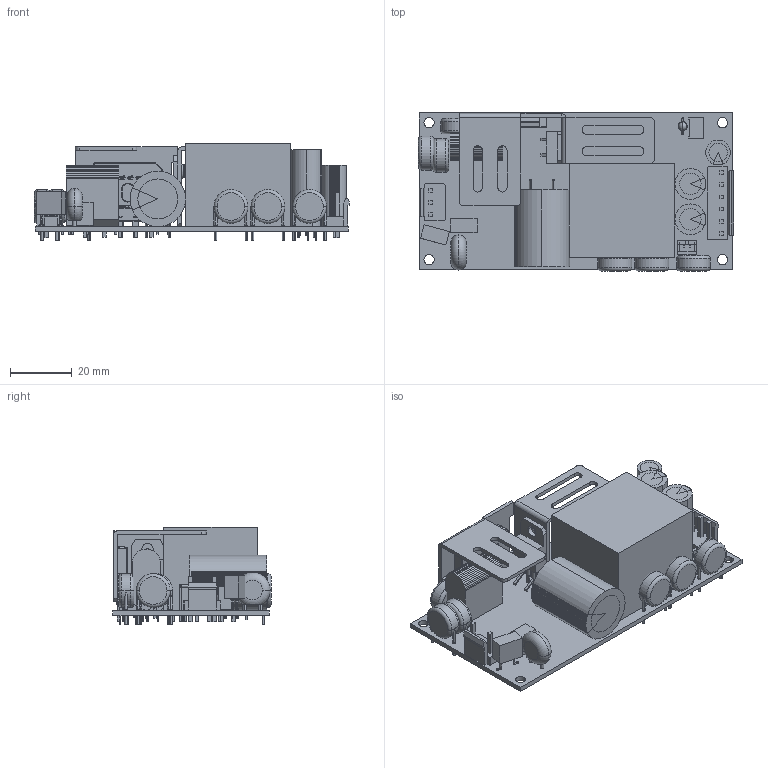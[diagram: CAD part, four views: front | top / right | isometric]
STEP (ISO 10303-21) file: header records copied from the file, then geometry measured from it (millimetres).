
FILE_DESCRIPTION(('Creo Elements/Direct Modeling STEP Export'),'2;1');
FILE_NAME('RPS-200-K.stp','2022-03-28T10:46:09',(''),(''),'PTC Creo Elements/Direct Modeling STEP processor for AP214 (Solid Model)','PTC Creo Elements/Direct Modeling 19.0A 04-Oct-2014 (C) Parametric Technology GmbH','');
FILE_SCHEMA(('AUTOMOTIVE_DESIGN { 1 0 10303 214 1 1 1 1 }'));
Length unit declared in the file: millimetre
Products named in the file (158): 零件1; PCB; EXTRUDED-162647_PRT.PRT; 1204597104_ASM.ASM; CYLINDER-162455_PRT.PRT; 1190552160_ASM.ASM; CYLINDER-162258_PRT.PRT; 1190550792_ASM.ASM; CYLINDER-162066_PRT.PRT; 1190551856_ASM.ASM; C106_ASM.ASM; C105_ASM.ASM; CYLINDER-109881_PRT.PRT; 1203400576_ASM.ASM; CYLINDER-109689_PRT.PRT; 1190552616_ASM.ASM; CYLINDER-109487_PRT.PRT; 1203400272_ASM.ASM; EXTRUDED-106229_PRT.PRT; 1183596560_ASM.ASM; C110_ASM.ASM; 1BC1-Y-L140W040-P100_PRT.PRT; C30_ASM.ASM; C129_ASM.ASM; C31_ASM.ASM; C32_ASM.ASM; C4_ASM.ASM; C3_ASM.ASM; CYLINDER-161779_PRT.PRT; 1157824112_ASM.ASM; CYLINDER-161587_PRT.PRT; 1157823960_ASM.ASM; CYLINDER-161134_PRT.PRT; 1166997624_ASM.ASM; CYLINDER-161326_PRT.PRT; 1157823656_ASM.ASM; SPHERE-161518_PRT.PRT; 1157823808_ASM.ASM; EXTRUDED-157876_PRT.PRT; 1157824264_ASM.ASM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
Assembly tree (185 placements, depth 5):
  200
    零件
      HS-SZ033
        p2
        pin.1.2.1.1
      T1
      CN2
        1FF1-JS1120_ASM.ASM
          EXTRUDED-99930_PRT.PRT
        838261600_ASM.ASM  x2
          EXTRUDED-100986_PRT.PRT.1.1.1
          EXTRUDED-100986_PRT.PRT.1.1
          EXTRUDED-100986_PRT.PRT.1
          EXTRUDED-100986_PRT.PRT
        838219840_ASM.ASM
          EXTRUDED-101363_PRT.PRT
      Q1_ASM.ASM
        MOSq1
        1CDX-TO220F-A_AKA_-VT-1_ASM.ASM  x2
          EXTRUDED-136511_PRT.PRT
        1CDX-TO220F-A_AKA_-VT-1_6751473.PRT
        1183597200_ASM.ASM
          EXTRUDED-143933_PRT.PRT
      SVR1_ASM.ASM
        1AR-_3362W_ASM.ASM
          1AR-_3362W_1_PRT.PRT
          1AR-_3362W_2_PRT.PRT
          1AR-_3362W_3_PRT.PRT
          1AR-_3362W_4_PRT.PRT
          1AR-_3362W_5_PRT.PRT
          1AR-_3362W_6_PRT.PRT
          1AR-_3362W_7_PRT.PRT
          1AR-_3362W_8_PRT.PRT
      RTH1_ASM.ASM
        1ARC-SCK-103_ASM.ASM
          1ARC-SCK-103_1_PRT.PRT
          1ARC-SCK-103_2_PRT.PRT
          1ARC-SCK-103_3_PRT.PRT
      OPEN_CASCADE_STEP_TRANSLA-56837.ASM
        USER_LIBRARY-GBU_ASM.ASM
          USER_LIBRARY-GBU_1_PRT.PRT
          USER_LIBRARY-GBU_2_PRT.PRT
          USER_LIBRARY-GBU_3_PRT.PRT
          USER_LIBRARY-GBU_4_PRT.PRT
          USER_LIBRARY-GBU_5_PRT.PRT
      LED1_ASM.ASM
        1165685400_ASM.ASM  x2
          CYLINDER-144360_PRT.PRT
        1165663896_ASM.ASM  x2
          SPHERE-144552_PRT.PRT
        1166360672_ASM.ASM
          CYLINDER-144616_PRT.PRT
        1164522336_ASM.ASM
          CYLINDER-144808_PRT.PRT
        1166603984_ASM.ASM
          EXTRUDED-145000_PRT.PRT
        1164526896_ASM.ASM
          CYLINDER-147790_PRT.PRT
        1164509112_ASM.ASM
          SPHERE-147982_PRT.PRT
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Bounding box: 102.25 x 51.3 x 31.5 mm (x, y, z)
Volume: 61874.2 mm3; surface area: 36949.5 mm2
Topology: 108 solids, 108 shells, 1361 faces, 3449 edges, 2292 vertices
Faces by surface type: plane 883, cylinder 296, sphere 59, torus 58, extrusion 57, bspline 6, cone 2
Entity records: 45061 total; most frequent: CARTESIAN_POINT 10141, ORIENTED_EDGE 5704, DIRECTION 5401, EDGE_CURVE 2852, VECTOR 2103, LINE 2046, VERTEX_POINT 1952, AXIS2_PLACEMENT_3D 1649
